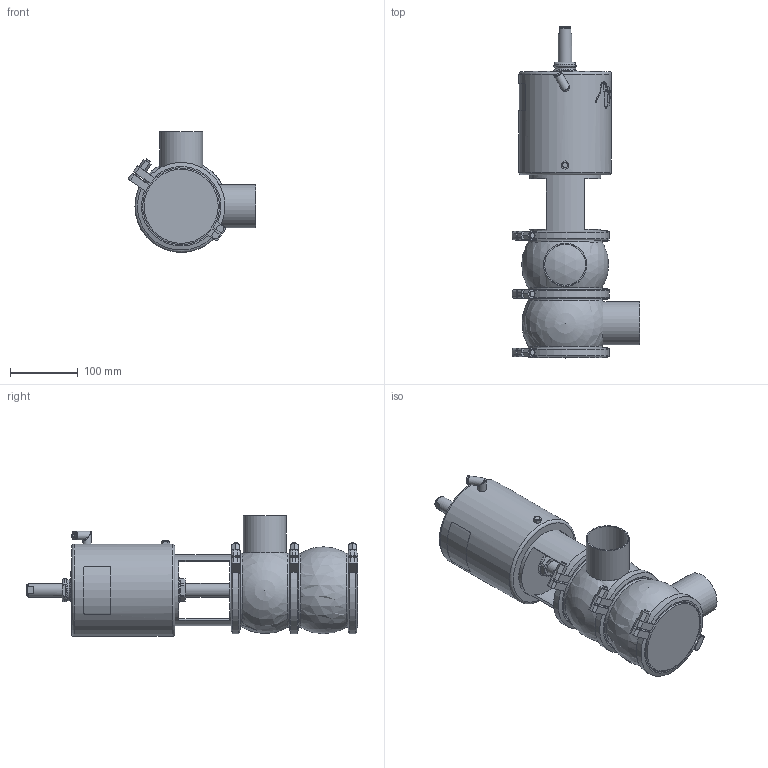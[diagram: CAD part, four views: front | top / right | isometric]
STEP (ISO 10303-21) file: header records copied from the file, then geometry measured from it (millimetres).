
FILE_DESCRIPTION (( 'STEP AP214' ), '1' );
FILE_NAME ('INNOVA M D W OD 2½ T3 AS NC_10.241.16.0010.STEP', '2024-08-07T07:57:51', ( '' ), ( '' ), 'SwSTEP 2.0', 'SolidWorks 2023', '' );
FILE_SCHEMA (( 'AUTOMOTIVE_DESIGN' ));
Length unit declared in the file: millimetre
Products named in the file (6): INNOVA M D W OD 2½ T3 AS NC_10.241.16.0010; 10.240.15.0014_T3 AS P180; 10.240.15.0001_DN 065; 10.241.15.0001_DIN 065; 10.240.15.0010_DN 065; 10.240.15.0006_OD 2½"
Assembly tree (8 placements, depth 2):
  INNOVA M D W OD 2½ T3 AS NC_10.241.16.0010
    10.240.15.0006_OD 2½"  x2
    10.240.15.0010_DN 065
    10.240.15.0014_T3 AS P180
    10.240.15.0001_DN 065  x3
    10.241.15.0001_DIN 065
Bounding box: 188.15 x 488.5 x 178 mm (x, y, z)
Volume: 4603377.6 mm3; surface area: 419366.3 mm2
Topology: 9 solids, 9 shells, 459 faces, 1211 edges, 789 vertices
Faces by surface type: plane 225, cylinder 110, bspline 80, cone 36, sphere 4, torus 4
Full cylindrical faces by diameter (mm): 6.15 x1, 8 x7, 8.5 x1, 10.5 x1, 12.5 x3, 16 x1, 20 x2, 31 x1, 34.5 x2, 36.5 x1, 60.2 x2, 63.5 x2, 105 x1, 109 x5, 121 x6, 136 x1
Entity records: 20380 total; most frequent: CARTESIAN_POINT 11271, ORIENTED_EDGE 1592, DIRECTION 1205, EDGE_CURVE 796, VERTEX_POINT 547, AXIS2_PLACEMENT_3D 458, EDGE_LOOP 399, FACE_OUTER_BOUND 360
